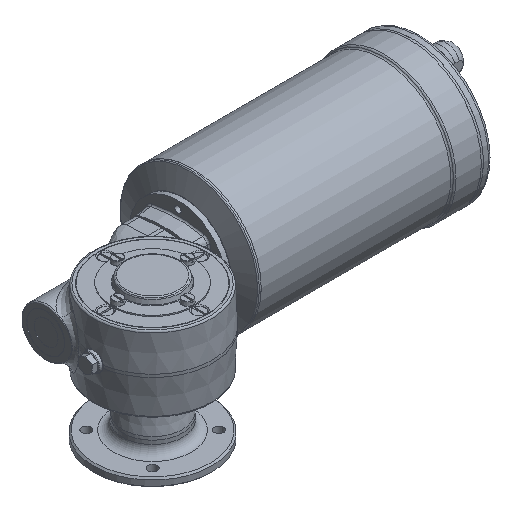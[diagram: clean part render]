
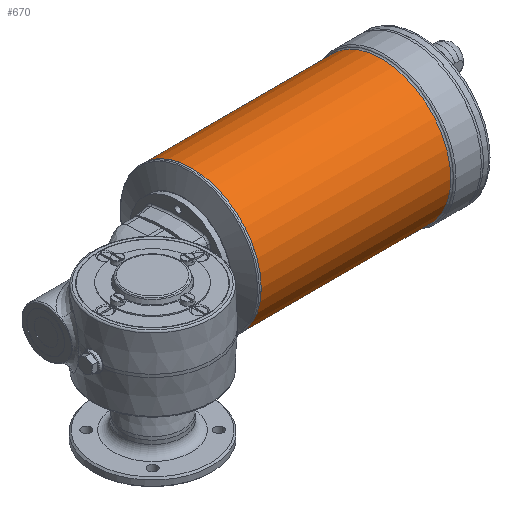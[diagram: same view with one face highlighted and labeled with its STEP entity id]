
A CAD part, isometric view. The second image highlights one B-rep face of the part: STEP entity #670.
In plain terms, the highlighted cylindrical face has radius 64.5 mm (diameter 129 mm), a full revolution.
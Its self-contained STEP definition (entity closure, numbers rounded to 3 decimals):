
#670 = ADVANCED_FACE( '', ( #1955, #1956 ), #1957, .T. );
#1955 = FACE_OUTER_BOUND( '', #4300, .T. );
#1956 = FACE_OUTER_BOUND( '', #4301, .T. );
#1957 = CYLINDRICAL_SURFACE( '', #4302, 64.5 );
#4300 = EDGE_LOOP( '', ( #11436 ) );
#4301 = EDGE_LOOP( '', ( #11437 ) );
#4302 = AXIS2_PLACEMENT_3D( '', #11438, #11439, #11440 );
#11436 = ORIENTED_EDGE( '', *, *, #15992, .T. );
#11437 = ORIENTED_EDGE( '', *, *, #15993, .T. );
#11438 = CARTESIAN_POINT( '', ( 241.668, 45., 0. ) );
#11439 = DIRECTION( '', ( -1., 0., 0. ) );
#11440 = DIRECTION( '', ( 0., 0., 1. ) );
#15992 = EDGE_CURVE( '', #17774, #17774, #17775, .F. );
#15993 = EDGE_CURVE( '', #17776, #17776, #17777, .T. );
#17774 = VERTEX_POINT( '', #20442 );
#17775 = CIRCLE( '', #20443, 64.5 );
#17776 = VERTEX_POINT( '', #20444 );
#17777 = CIRCLE( '', #20445, 64.5 );
#20442 = CARTESIAN_POINT( '', ( 257.672, 45., 64.5 ) );
#20443 = AXIS2_PLACEMENT_3D( '', #25956, #25957, #25958 );
#20444 = CARTESIAN_POINT( '', ( 81.5, 45., 64.5 ) );
#20445 = AXIS2_PLACEMENT_3D( '', #25959, #25960, #25961 );
#25956 = CARTESIAN_POINT( '', ( 257.672, 45., 0. ) );
#25957 = DIRECTION( '', ( 1., 0., 0. ) );
#25958 = DIRECTION( '', ( 0., 0., 1. ) );
#25959 = CARTESIAN_POINT( '', ( 81.5, 45., 0. ) );
#25960 = DIRECTION( '', ( 1., 0., 0. ) );
#25961 = DIRECTION( '', ( 0., 0., 1. ) );
